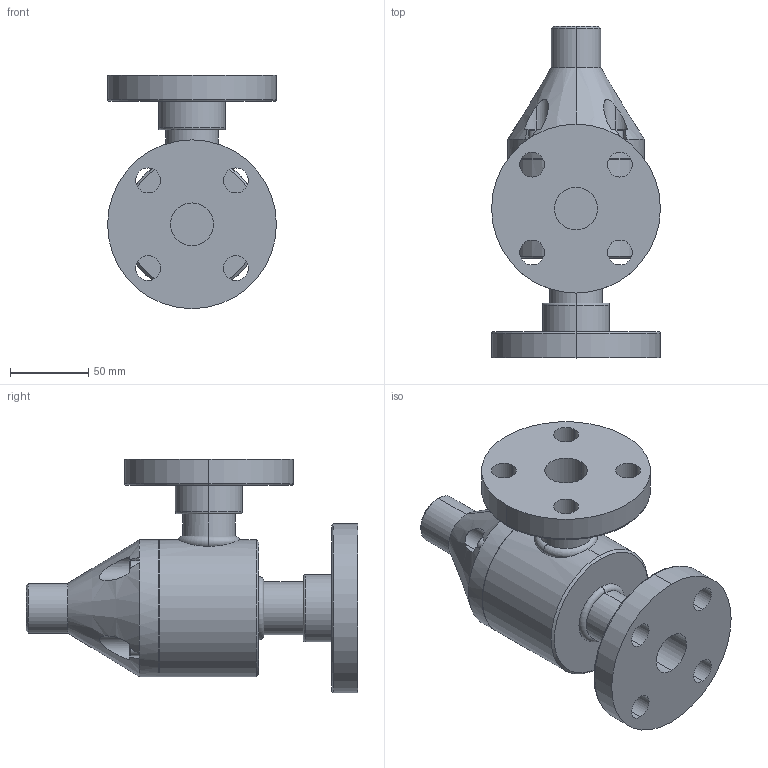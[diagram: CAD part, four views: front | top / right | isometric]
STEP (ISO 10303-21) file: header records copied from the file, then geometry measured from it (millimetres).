
FILE_DESCRIPTION (( 'STEP AP203' ), '1' );
FILE_NAME ('GBP1000_90-FLNG.STEP', '2016-02-12T10:25:18', ( '' ), ( '' ), 'SwSTEP 2.0', 'SolidWorks 2014', '' );
FILE_SCHEMA (( 'CONFIG_CONTROL_DESIGN' ));
Length unit declared in the file: inch
Products named in the file (2): GBP1000_90-FLNG
Bounding box: 107.95 x 212.09 x 149.22 mm (x, y, z)
Volume: 954689.8 mm3; surface area: 110525.2 mm2
Topology: 1 solids, 1 shells, 165 faces, 393 edges, 250 vertices
Faces by surface type: plane 77, cylinder 56, cone 20, torus 12
Entity records: 5411 total; most frequent: CARTESIAN_POINT 1293, DIRECTION 869, ORIENTED_EDGE 786, EDGE_CURVE 393, AXIS2_PLACEMENT_3D 331, VERTEX_POINT 250, LINE 207, VECTOR 207
